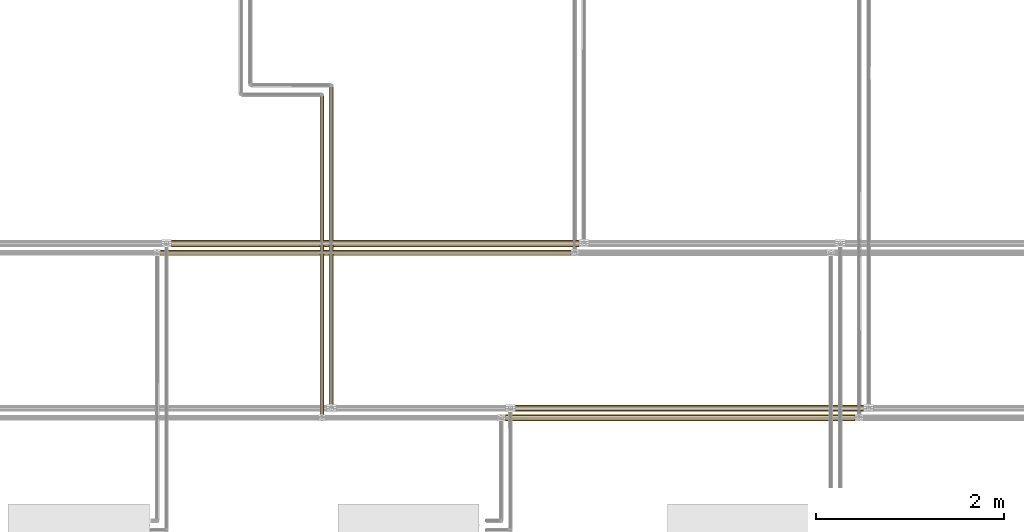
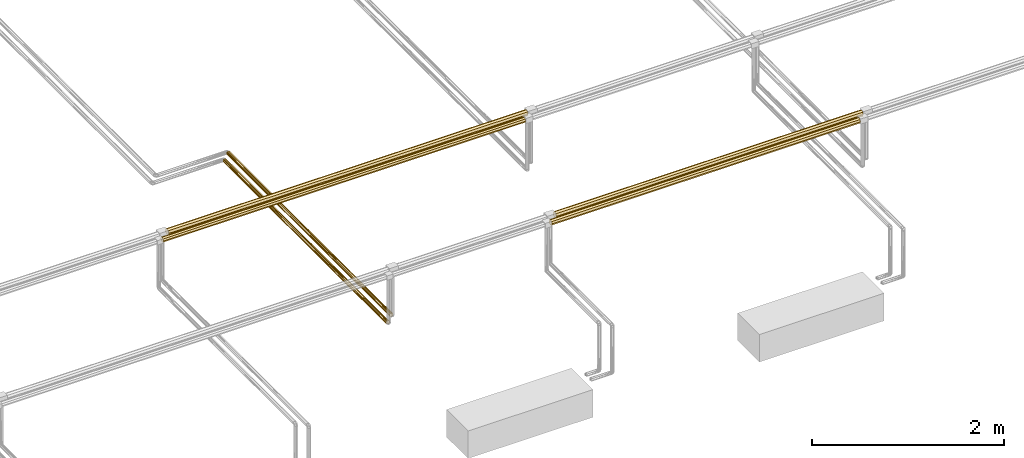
# One storey, part 130 of 652: 6 coverings.
"""IFC2X3 building model written with IfcOpenShell, lengths in millimetres."""

from ifc_helpers import new_model, entity, si_unit, converted_unit, direction, frame, origin, place, context, subcontext, project, spatial, faceted_brep, material, type_object, element, save


model = new_model("IFC2X3")

# Units and contexts
model_context = context("Model", 3, precision=0.01, world=frame((0.0, 0.0, 308426.39999999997)), true_north=direction((6.123233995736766e-17, 1.0)))
plan_context = context("Plan", 3, precision=0.01, world=frame((0.0, 0.0, 308426.39999999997)), true_north=direction((6.123233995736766e-17, 1.0)))
body_context = subcontext(model_context, "Body", "Model", "MODEL_VIEW")
ifc_project = project(units=[si_unit("LENGTHUNIT", "METRE", prefix="MILLI"), si_unit("AREAUNIT", "SQUARE_METRE"), si_unit("VOLUMEUNIT", "CUBIC_METRE"), converted_unit("PLANEANGLEUNIT", "DEGREE", entity("IfcPlaneAngleMeasure", 0.017453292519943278), si_unit("PLANEANGLEUNIT", "RADIAN"), dimensions=[0, 0, 0, 0, 0, 0, 0])], contexts=[model_context, plan_context])

# Site, building, storey
site_placement = place(None, origin())
site = spatial("IfcSite", under=ifc_project, at=site_placement, Name="Default", CompositionType="ELEMENT")
building_placement = place(site_placement, origin())
building = spatial("IfcBuilding", under=site, at=building_placement, CompositionType="ELEMENT")
storey_placement = place(building_placement, frame((0.0, 0.0, 1730.6999999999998)))
storey = spatial("IfcBuildingStorey", under=building, at=storey_placement, Name="EG_Produktion_FFB", CompositionType="ELEMENT", Elevation=1730.6999999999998)

# Coverings
ifc_material = material(Name="Dämmung - Armaflex-Schlauch")
covering_type = type_object("IfcCoveringType", Name="Rohrdämmung außen:Armaflex-Schlauch", PredefinedType="INSULATION")
covering_1_placement = place(storey_placement, frame((65836.7596831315, 69876.94222776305, 3938.057772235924)))
element("IfcCovering", 1, at=covering_1_placement, inside=storey, type_object=covering_type, material=ifc_material, Name="Rohrdämmung außen:Armaflex-Schlauch", ObjectType="Rohrdämmung außen:Armaflex-Schlauch", PredefinedType="INSULATION", context=body_context, shape_type="Brep", body=[
    faceted_brep([(0.0, 1.5952722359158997, -38.057772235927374), (0.0, 5.300876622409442, -29.111651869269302), (0.0, 6.935081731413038, -25.166331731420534), (0.0, 9.604986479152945, -18.72061147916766), (0.0, 12.274891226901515, -12.274891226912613), (0.0, 18.72061147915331, -9.604986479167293), (0.0, 25.166331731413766, -6.935081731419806), (0.0, 31.612051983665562, -4.265176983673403), (0.0, 38.057772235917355, -1.595272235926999), (0.0, 47.003892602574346, -5.300876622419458), (0.0, 50.94921274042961, -6.935081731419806), (0.0, 57.394932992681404, -9.60498647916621), (0.0, 63.8406532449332, -12.274891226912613), (0.0, 66.51055799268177, -18.72061147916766), (0.0, 69.18046274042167, -25.166331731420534), (0.0, 71.8503674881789, -31.612051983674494), (0.0, 74.52027223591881, -38.057772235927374), (0.0, 71.85036748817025, -44.50349248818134), (0.0, 69.18046274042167, -50.94921274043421), (0.0, 66.5105579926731, -57.39493299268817), (0.0, 63.8406532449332, -63.84065324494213), (0.0, 57.39493299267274, -66.51055799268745), (0.0, 50.94921274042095, -69.18046274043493), (0.0, 44.50349248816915, -71.85036748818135), (0.0, 38.057772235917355, -74.52027223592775), (0.0, 29.111651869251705, -70.8146678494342), (0.0, 25.166331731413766, -69.18046274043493), (0.0, 18.72061147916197, -66.51055799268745), (0.0, 12.274891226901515, -63.84065324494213), (0.0, 9.604986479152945, -57.39493299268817), (0.0, 6.935081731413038, -50.94921274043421), (0.0, 4.265176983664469, -44.50349248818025), (4321.1055000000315, 18.72061147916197, -66.51055799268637), (4321.1055000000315, 25.166331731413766, -69.18046274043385), (4321.1055000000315, 31.612051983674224, -71.85036748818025), (4321.1055000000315, 38.057772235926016, -74.52027223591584), (4321.1055000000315, 47.003892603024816, -70.81466784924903), (4321.1055000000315, 55.95001297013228, -67.10906346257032), (4321.1055000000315, 63.84065324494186, -63.84065324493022), (4321.1055000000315, 66.51055799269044, -57.39493299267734), (4321.1055000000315, 69.18046274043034, -50.949212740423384), (4321.1055000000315, 71.85036748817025, -44.50349248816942), (4321.1055000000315, 74.52027223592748, -38.05777223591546), (4321.1055000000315, 70.81466784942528, -29.111651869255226), (4321.1055000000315, 67.10906346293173, -20.165531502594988), (4321.1055000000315, 63.84065324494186, -12.274891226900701), (4321.1055000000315, 57.394932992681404, -9.604986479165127), (4321.1055000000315, 50.94921274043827, -6.935081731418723), (4321.1055000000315, 44.50349248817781, -4.265176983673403), (4321.1055000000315, 38.057772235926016, -1.5952722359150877), (4321.1055000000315, 29.11165186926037, -5.300876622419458), (4321.1055000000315, 20.165531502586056, -9.006481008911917), (4321.1055000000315, 12.274891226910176, -12.274891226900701), (4321.1055000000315, 9.604986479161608, -18.720611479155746), (4321.1055000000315, 6.935081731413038, -25.166331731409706), (4321.1055000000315, 4.265176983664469, -31.6120519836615), (4321.1055000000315, 1.5952722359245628, -38.05777223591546), (4321.1055000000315, 5.300876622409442, -47.003892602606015), (4321.105500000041, 9.006481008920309, -55.95001296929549), (4321.1055000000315, 12.274891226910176, -63.84065324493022)], [[[0, 1, 2, 3, 4, 5, 6, 7, 8, 9, 10, 11, 12, 13, 14, 15, 16, 17, 18, 19, 20, 21, 22, 23, 24, 25, 26, 27, 28, 29, 30, 31]], [[32, 33, 34, 35, 36, 37, 38, 39, 40, 41, 42, 43, 44, 45, 46, 47, 48, 49, 50, 51, 52, 53, 54, 55, 56, 57, 58, 59]], [[40, 39, 38, 20, 19, 18, 17, 16, 42, 41]], [[38, 37, 36, 35, 24, 23, 22, 21, 20]], [[30, 29, 28, 59, 58, 57, 56, 0, 31]], [[27, 26, 25, 24, 35, 34, 33, 32, 59, 28]], [[6, 5, 4, 52, 51, 50, 49, 8, 7]], [[3, 2, 1, 0, 56, 55, 54, 53, 52, 4]], [[14, 13, 12, 45, 44, 43, 42, 16, 15]], [[11, 10, 9, 8, 49, 48, 47, 46, 45, 12]]]),
])
covering_2_placement = place(storey_placement, frame((69486.75968313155, 68126.94222776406, 3861.942227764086)))
element("IfcCovering", 2, at=covering_2_placement, inside=storey, type_object=covering_type, material=ifc_material, Name="Rohrdämmung außen:Armaflex-Schlauch", ObjectType="Rohrdämmung außen:Armaflex-Schlauch", PredefinedType="INSULATION", context=body_context, shape_type="Brep", body=[
    faceted_brep([(3691.105500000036, 74.52027223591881, 38.057772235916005), (3691.105500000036, 72.35123270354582, 43.29429689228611), (3691.105500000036, 69.18046274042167, 50.949212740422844), (3691.105500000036, 66.51055799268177, 57.3949329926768), (3691.105500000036, 63.8406532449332, 63.84065324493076), (3691.105500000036, 57.39493299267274, 66.51055799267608), (3691.105500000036, 50.94921274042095, 69.18046274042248), (3691.105500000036, 44.50349248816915, 71.85036748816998), (3691.105500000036, 38.057772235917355, 74.52027223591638), (3691.105500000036, 32.82124757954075, 72.35123270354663), (3691.105500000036, 25.166331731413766, 69.18046274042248), (3691.105500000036, 18.720611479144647, 66.51055799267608), (3691.105500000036, 12.274891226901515, 63.84065324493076), (3691.105500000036, 9.604986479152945, 57.3949329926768), (3691.105500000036, 6.935081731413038, 50.949212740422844), (3691.105500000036, 4.265176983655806, 44.50349248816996), (3691.105500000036, 1.5952722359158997, 38.057772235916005), (3691.105500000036, 4.265176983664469, 31.61205198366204), (3691.105500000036, 6.935081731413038, 25.166331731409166), (3691.105500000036, 9.604986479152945, 18.720611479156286), (3691.105500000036, 12.274891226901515, 12.274891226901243), (3691.105500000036, 18.72061147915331, 9.604986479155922), (3691.105500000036, 25.166331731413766, 6.935081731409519), (3691.105500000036, 31.612051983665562, 4.265176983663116), (3691.105500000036, 38.057772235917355, 1.595272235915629), (3691.105500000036, 43.294296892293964, 3.7643117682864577), (3691.105500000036, 50.94921274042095, 6.935081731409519), (3691.105500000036, 57.394932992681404, 9.604986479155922), (3691.105500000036, 63.8406532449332, 12.274891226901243), (3691.105500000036, 66.51055799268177, 18.720611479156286), (3691.105500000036, 69.18046274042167, 25.166331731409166), (3691.1055000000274, 71.85036748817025, 31.61205198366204), (0.0, 57.394932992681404, 9.604986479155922), (0.0, 50.94921274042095, 6.935081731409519), (0.0, 44.50349248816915, 4.265176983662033), (0.0, 38.057772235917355, 1.595272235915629), (0.0, 27.584722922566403, 5.933351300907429), (0.0, 19.929807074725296, 9.104121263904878), (0.0, 12.274891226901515, 12.274891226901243), (0.0, 9.604986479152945, 18.720611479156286), (0.0, 6.935081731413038, 25.166331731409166), (0.0, 4.265176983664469, 31.61205198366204), (0.0, 1.5952722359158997, 38.057772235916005), (0.0, 5.933351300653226, 48.53082154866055), (0.0, 9.10412126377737, 56.18573739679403), (0.0, 12.274891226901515, 63.84065324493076), (0.0, 18.72061147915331, 66.51055799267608), (0.0, 25.166331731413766, 69.18046274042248), (0.0, 31.612051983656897, 71.85036748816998), (0.0, 38.057772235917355, 74.52027223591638), (0.0, 48.530821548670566, 70.18219317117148), (0.0, 56.18573739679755, 67.01142320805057), (0.0, 63.8406532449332, 63.84065324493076), (0.0, 66.51055799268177, 57.39493299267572), (0.0, 69.18046274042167, 50.949212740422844), (0.0, 71.85036748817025, 44.50349248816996), (0.0, 74.52027223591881, 38.057772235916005), (0.0, 70.1821931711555, 27.58472292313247), (0.0, 67.01142320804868, 19.9298070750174), (0.0, 63.8406532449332, 12.274891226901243)], [[[0, 1, 2, 3, 4, 5, 6, 7, 8, 9, 10, 11, 12, 13, 14, 15, 16, 17, 18, 19, 20, 21, 22, 23, 24, 25, 26, 27, 28, 29, 30, 31]], [[32, 33, 34, 35, 36, 37, 38, 39, 40, 41, 42, 43, 44, 45, 46, 47, 48, 49, 50, 51, 52, 53, 54, 55, 56, 57, 58, 59]], [[40, 39, 38, 20, 19, 18, 17, 16, 42, 41]], [[36, 35, 24, 23, 22, 21, 20, 38, 37]], [[33, 32, 59, 28, 27, 26, 25, 24, 35, 34]], [[28, 59, 58, 57, 56, 0, 31, 30, 29]], [[54, 53, 52, 4, 3, 2, 1, 0, 56, 55]], [[4, 52, 51, 50, 49, 8, 7, 6, 5]], [[47, 46, 45, 12, 11, 10, 9, 8, 49, 48]], [[12, 45, 44, 43, 42, 16, 15, 14, 13]]]),
])
covering_3_placement = place(storey_placement, frame((65719.36068313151, 69783.29222776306, 3868.2922277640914)))
element("IfcCovering", 3, at=covering_3_placement, inside=storey, type_object=covering_type, material=ifc_material, Name="Rohrdämmung außen:Armaflex-Schlauch", ObjectType="Rohrdämmung außen:Armaflex-Schlauch", PredefinedType="INSULATION", context=body_context, shape_type="Brep", body=[
    faceted_brep([(0.0, 1.5952722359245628, 31.707772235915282), (0.0, 4.354110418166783, 38.36819679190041), (0.0, 6.005145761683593, 42.354148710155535), (0.0, 8.210082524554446, 47.677336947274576), (0.0, 10.415019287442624, 53.000525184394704), (0.0, 15.738207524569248, 55.2054619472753), (0.0, 21.06139576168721, 57.410398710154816), (0.0, 26.38458399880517, 59.615335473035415), (0.0, 31.70777223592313, 61.820272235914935), (0.0, 38.36819679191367, 59.061434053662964), (0.0, 42.35414871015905, 57.410398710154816), (0.0, 47.677336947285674, 55.2054619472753), (0.0, 53.000525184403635, 53.000525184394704), (0.0, 55.205461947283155, 47.677336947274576), (0.0, 57.41039871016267, 42.354148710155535), (0.0, 59.61533547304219, 37.03096047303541), (0.0, 61.8202722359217, 31.707772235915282), (0.0, 59.61533547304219, 26.384583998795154), (0.0, 57.41039871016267, 21.061395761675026), (0.0, 55.205461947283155, 15.738207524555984), (0.0, 53.000525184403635, 10.415019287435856), (0.0, 47.677336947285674, 8.210082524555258), (0.0, 42.35414871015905, 6.005145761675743), (0.0, 37.03096047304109, 3.8002089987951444), (0.0, 31.70777223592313, 1.595272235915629), (0.0, 25.047347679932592, 4.354110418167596), (0.0, 21.06139576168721, 6.005145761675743), (0.0, 15.738207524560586, 8.210082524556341), (0.0, 10.415019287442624, 10.415019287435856), (0.0, 8.21008252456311, 15.738207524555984), (0.0, 6.005145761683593, 21.061395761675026), (0.0, 3.800208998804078, 26.384583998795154), (4355.903500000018, 15.738207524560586, 8.210082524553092), (4355.903500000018, 21.06139576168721, 6.005145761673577), (4355.903500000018, 26.384583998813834, 3.8002089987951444), (4355.903500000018, 31.707772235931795, 1.5952722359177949), (4355.903500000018, 38.36819679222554, 4.3541104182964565), (4355.903500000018, 45.02862134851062, 7.112948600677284), (4355.903500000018, 53.000525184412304, 10.415019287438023), (4355.903500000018, 55.205461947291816, 15.738207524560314), (4355.903500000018, 57.410398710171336, 21.061395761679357), (4355.903500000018, 59.61533547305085, 26.3845839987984), (4355.903500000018, 61.82027223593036, 31.707772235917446), (4355.903500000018, 59.061434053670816, 38.36819679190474), (4355.903500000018, 56.30259587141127, 45.02862134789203), (4355.903500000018, 53.000525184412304, 53.00052518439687), (4355.903500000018, 47.677336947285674, 55.205461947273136), (4355.903500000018, 42.35414871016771, 57.410398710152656), (4355.903500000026, 37.03096047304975, 59.615335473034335), (4355.903500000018, 31.707772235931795, 61.820272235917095), (4355.903500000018, 25.047347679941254, 59.061434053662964), (4355.903500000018, 18.386923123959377, 56.302595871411), (4355.903500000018, 10.415019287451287, 53.00052518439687), (4355.903500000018, 8.210082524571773, 47.67733694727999), (4355.903500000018, 6.005145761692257, 42.3541487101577), (4355.903500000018, 3.800208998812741, 37.030960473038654), (4355.903500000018, 1.5952722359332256, 31.707772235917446), (4355.903500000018, 4.354110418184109, 25.047347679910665), (4355.903500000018, 7.112948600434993, 18.38692312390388), (4355.903500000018, 10.415019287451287, 10.415019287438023)], [[[0, 1, 2, 3, 4, 5, 6, 7, 8, 9, 10, 11, 12, 13, 14, 15, 16, 17, 18, 19, 20, 21, 22, 23, 24, 25, 26, 27, 28, 29, 30, 31]], [[32, 33, 34, 35, 36, 37, 38, 39, 40, 41, 42, 43, 44, 45, 46, 47, 48, 49, 50, 51, 52, 53, 54, 55, 56, 57, 58, 59]], [[40, 39, 38, 20, 19, 18, 17, 16, 42, 41]], [[38, 37, 36, 35, 24, 23, 22, 21, 20]], [[56, 0, 31, 30, 29, 28, 59, 58, 57]], [[27, 26, 25, 24, 35, 34, 33, 32, 59, 28]], [[49, 8, 7, 6, 5, 4, 52, 51, 50]], [[3, 2, 1, 0, 56, 55, 54, 53, 52, 4]], [[42, 16, 15, 14, 13, 12, 45, 44, 43]], [[11, 10, 9, 8, 49, 48, 47, 46, 45, 12]]]),
])
covering_4_placement = place(storey_placement, frame((69378.06018313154, 68030.11722776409, 3865.117227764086)))
element("IfcCovering", 4, at=covering_4_placement, inside=storey, type_object=covering_type, material=ifc_material, Name="Rohrdämmung außen:Armaflex-Schlauch", ObjectType="Rohrdämmung außen:Armaflex-Schlauch", PredefinedType="INSULATION", context=body_context, shape_type="Brep", body=[
    faceted_brep([(3708.5045000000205, 68.17027223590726, 34.88277223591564), (3708.5045000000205, 66.28715559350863, 39.42901797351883), (3708.5045000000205, 63.295430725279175, 46.65168072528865), (3708.5045000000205, 60.8580099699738, 52.536134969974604), (3708.5045000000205, 58.420589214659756, 58.42058921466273), (3708.5045000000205, 52.53613496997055, 60.85800996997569), (3708.5045000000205, 46.65168072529, 63.295430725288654), (3708.5045000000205, 40.76722648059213, 65.73285148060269), (3708.5045000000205, 34.88277223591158, 68.17027223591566), (3708.504500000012, 30.336526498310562, 66.28715559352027), (3708.5045000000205, 23.113863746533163, 63.295430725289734), (3708.5045000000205, 17.229409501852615, 60.85800996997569), (3708.5045000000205, 11.344955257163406, 58.42058921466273), (3708.5045000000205, 8.907534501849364, 52.53613496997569), (3708.5045000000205, 6.470113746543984, 46.65168072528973), (3708.504500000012, 4.0326929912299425, 40.76722648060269), (3708.5045000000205, 1.5952722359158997, 34.88277223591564), (3708.5045000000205, 4.032692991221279, 28.9983179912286), (3708.5045000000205, 6.470113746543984, 23.113863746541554), (3708.5045000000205, 8.907534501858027, 17.229409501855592), (3708.5045000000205, 11.344955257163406, 11.34495525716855), (3708.5045000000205, 17.229409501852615, 8.90753450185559), (3708.5045000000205, 23.113863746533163, 6.470113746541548), (3708.5045000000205, 28.998317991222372, 4.032692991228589), (3708.5045000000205, 34.88277223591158, 1.595272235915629), (3708.504500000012, 39.4290179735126, 3.4783888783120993), (3708.5045000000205, 46.65168072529, 6.470113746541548), (3708.5045000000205, 52.53613496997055, 8.90753450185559), (3708.5045000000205, 58.420589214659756, 11.34495525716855), (3708.5045000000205, 60.85800996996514, 17.229409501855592), (3708.5045000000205, 63.295430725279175, 23.113863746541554), (3708.5045000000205, 65.73285148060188, 28.9983179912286), (0.0, 52.53613496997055, 8.90753450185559), (0.0, 46.65168072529, 6.470113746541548), (0.0, 40.76722648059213, 4.032692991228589), (0.0, 34.88277223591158, 1.595272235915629), (0.0, 25.790280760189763, 5.361505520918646), (0.0, 18.567618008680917, 8.353230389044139), (0.0, 11.344955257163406, 11.34495525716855), (0.0, 8.907534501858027, 17.229409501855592), (0.0, 6.470113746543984, 23.113863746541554), (0.0, 4.0326929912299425, 28.9983179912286), (0.0, 1.5952722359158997, 34.88277223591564), (0.0, 5.361505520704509, 43.975263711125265), (0.0, 8.353230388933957, 51.197926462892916), (0.0, 11.344955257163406, 58.42058921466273), (0.0, 17.229409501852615, 60.85800996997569), (0.0, 23.113863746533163, 63.295430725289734), (0.0, 28.998317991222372, 65.73285148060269), (0.0, 34.88277223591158, 68.17027223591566), (0.0, 43.97526371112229, 64.40403895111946), (0.0, 51.19792646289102, 61.4123140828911), (0.0, 58.420589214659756, 58.42058921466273), (0.0, 60.8580099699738, 52.536134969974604), (0.0, 63.295430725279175, 46.65168072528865), (0.0, 65.73285148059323, 40.7672264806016), (0.0, 68.17027223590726, 34.88277223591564), (0.0, 64.40403895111, 25.790280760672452), (0.0, 61.41231408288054, 18.56761800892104), (0.0, 58.420589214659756, 11.34495525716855)], [[[0, 1, 2, 3, 4, 5, 6, 7, 8, 9, 10, 11, 12, 13, 14, 15, 16, 17, 18, 19, 20, 21, 22, 23, 24, 25, 26, 27, 28, 29, 30, 31]], [[32, 33, 34, 35, 36, 37, 38, 39, 40, 41, 42, 43, 44, 45, 46, 47, 48, 49, 50, 51, 52, 53, 54, 55, 56, 57, 58, 59]], [[40, 39, 38, 20, 19, 18, 17, 16, 42, 41]], [[36, 35, 24, 23, 22, 21, 20, 38, 37]], [[33, 32, 59, 28, 27, 26, 25, 24, 35, 34]], [[28, 59, 58, 57, 56, 0, 31, 30, 29]], [[54, 53, 52, 4, 3, 2, 1, 0, 56, 55]], [[4, 52, 51, 50, 49, 8, 7, 6, 5]], [[47, 46, 45, 12, 11, 10, 9, 8, 49, 48]], [[12, 45, 44, 43, 42, 16, 15, 14, 13]]]),
])
covering_5_placement = place(storey_placement, frame((67406.95466089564, 68081.35497776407, 3274.6422277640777)))
element("IfcCovering", 5, at=covering_5_placement, inside=storey, type_object=covering_type, material=ifc_material, Name="Rohrdämmung außen:Armaflex-Schlauch", ObjectType="Rohrdämmung außen:Armaflex-Schlauch", PredefinedType="INSULATION", context=body_context, shape_type="Brep", body=[
    faceted_brep([(20.423230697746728, 3394.7872563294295, 48.04709335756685), (25.35777223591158, 3394.7872563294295, 49.12027223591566), (29.55842845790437, 3394.7872563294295, 47.380303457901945), (33.759084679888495, 3394.7872563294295, 45.640334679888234), (37.95974090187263, 3394.7872563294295, 43.90036590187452), (42.160397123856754, 3394.7872563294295, 42.16039712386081), (43.90036590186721, 3394.7872563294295, 37.95974090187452), (45.640334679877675, 3394.7872563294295, 33.759084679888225), (47.87895145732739, 3394.7872563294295, 28.354585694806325), (49.12027223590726, 3394.7872563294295, 25.35777223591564), (47.38030345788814, 3394.7872563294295, 21.157116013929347), (45.640334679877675, 3394.7872563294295, 16.956459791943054), (43.90036590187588, 3394.7872563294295, 12.755803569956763), (42.160397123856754, 3394.7872563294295, 8.55514734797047), (37.95974090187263, 3394.7872563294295, 6.8151785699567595), (33.759084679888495, 3394.7872563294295, 5.075209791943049), (29.55842845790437, 3394.7872563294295, 3.335241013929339), (25.35777223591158, 3394.7872563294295, 1.595272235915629), (20.423230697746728, 3394.7872563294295, 2.6684511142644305), (15.488689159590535, 3394.7872563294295, 3.741629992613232), (11.4481056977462, 3394.7872563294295, 6.764379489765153), (7.407522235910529, 3394.7872563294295, 9.78712898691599), (7.407522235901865, 3394.7872563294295, 40.92841548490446), (11.4481056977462, 3394.7872563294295, 43.95116498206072), (15.488689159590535, 3394.7872563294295, 46.97391447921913), (49.12027223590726, 1.5952722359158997, 25.357772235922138), (48.047093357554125, 1.5952722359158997, 30.292313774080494), (46.97391447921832, 1.5952722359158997, 35.22685531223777), (43.95116498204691, 1.5952722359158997, 39.267438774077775), (40.92841548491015, 1.5952722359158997, 43.308022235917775), (9.787128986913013, 1.5952722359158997, 43.308022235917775), (6.764379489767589, 1.5952722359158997, 39.267438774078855), (3.7416299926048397, 1.5952722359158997, 35.22685531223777), (2.6684511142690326, 1.5952722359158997, 30.292313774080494), (1.5952722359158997, 1.5952722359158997, 25.357772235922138), (3.3352410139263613, 1.5952722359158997, 21.15711601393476), (5.075209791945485, 1.5952722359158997, 16.95645979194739), (6.815178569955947, 1.5952722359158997, 12.755803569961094), (8.55514734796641, 1.5952722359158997, 8.555147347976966), (12.755803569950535, 1.5952722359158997, 6.815178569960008), (16.956459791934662, 1.5952722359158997, 5.075209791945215), (21.157116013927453, 1.5952722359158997, 3.335241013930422), (25.35777223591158, 1.5952722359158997, 1.5952722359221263), (31.351399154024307, 1.5952722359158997, 4.077913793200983), (36.75589813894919, 1.5952722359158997, 6.316530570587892), (42.160397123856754, 1.5952722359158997, 8.555147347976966), (43.90036590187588, 1.5952722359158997, 12.755803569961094), (45.640334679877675, 1.5952722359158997, 16.95645979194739), (47.38030345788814, 1.5952722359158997, 21.15711601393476), (2.345488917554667, 3389.7252230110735, 21.20275131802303), (5.251613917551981, 3392.6313480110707, 13.417429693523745), (3.095705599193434, 3390.4754396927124, 17.04773040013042), (1.5952722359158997, 3388.9750063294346, 25.35777223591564), (2.345488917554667, 3389.7252230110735, 29.512793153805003), (3.095705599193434, 3390.4754396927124, 33.667814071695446), (5.251613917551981, 3392.631348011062, 37.298114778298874), (13.417429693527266, 3.751180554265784, 45.463930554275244), (21.202751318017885, 6.657305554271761, 48.37005555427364), (25.35777223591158, 7.407522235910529, 49.12027223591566), (17.047730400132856, 5.907088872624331, 47.619838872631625), (29.51279315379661, 6.657305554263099, 48.370055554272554), (33.66781407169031, 5.907088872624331, 47.619838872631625), (37.2981147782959, 3.751180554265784, 45.463930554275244)], [[[0, 1, 2, 3, 4, 5, 6, 7, 8, 9, 10, 11, 12, 13, 14, 15, 16, 17, 18, 19, 20, 21, 22, 23, 24]], [[25, 26, 27, 28, 29, 30, 31, 32, 33, 34, 35, 36, 37, 38, 39, 40, 41, 42, 43, 44, 45, 46, 47, 48]], [[47, 46, 45, 13, 12, 11, 10, 9, 25, 48]], [[43, 42, 17, 16, 15, 14, 13, 45, 44]], [[20, 39, 38]], [[42, 41, 17]], [[40, 19, 18]], [[40, 39, 19]], [[34, 49, 35]], [[21, 37, 50]], [[51, 36, 35]], [[18, 41, 40]], [[36, 51, 50]], [[19, 39, 20]], [[49, 51, 35]], [[17, 41, 18]], [[38, 21, 20]], [[52, 49, 34]], [[37, 21, 38]], [[37, 36, 50]], [[53, 52, 34]], [[33, 54, 53]], [[55, 31, 22]], [[23, 56, 24]], [[55, 54, 32]], [[56, 23, 30]], [[57, 1, 0]], [[32, 54, 33]], [[57, 58, 1]], [[53, 34, 33]], [[31, 55, 32]], [[24, 59, 0]], [[31, 30, 22]], [[0, 59, 57]], [[23, 22, 30]], [[56, 59, 24]], [[58, 60, 1]], [[26, 25, 8]], [[2, 60, 61]], [[27, 6, 28]], [[62, 3, 61]], [[5, 29, 28]], [[27, 26, 7]], [[7, 26, 8]], [[1, 60, 2]], [[28, 6, 5]], [[25, 9, 8]], [[27, 7, 6]], [[3, 62, 4]], [[29, 4, 62]], [[2, 61, 3]], [[4, 29, 5]], [[54, 55, 22, 21, 50, 51, 49, 52, 53]], [[29, 62, 61, 60, 58, 57, 59, 56, 30]]]),
])
covering_6_placement = place(storey_placement, frame((67506.95466089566, 68181.35497776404, 3325.357772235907)))
element("IfcCovering", 6, at=covering_6_placement, inside=storey, type_object=covering_type, material=ifc_material, Name="Rohrdämmung außen:Armaflex-Schlauch", ObjectType="Rohrdämmung außen:Armaflex-Schlauch", PredefinedType="INSULATION", context=body_context, shape_type="Brep", body=[
    faceted_brep([(20.42323069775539, 3394.787256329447, -2.668451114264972), (25.357772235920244, 3394.787256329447, -1.5952722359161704), (29.558428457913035, 3394.787256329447, -3.3352410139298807), (33.759084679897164, 3394.787256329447, -5.075209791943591), (37.95974090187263, 3394.787256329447, -6.8151785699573), (42.160397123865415, 3394.787256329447, -8.55514734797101), (43.90036590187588, 3394.787256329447, -12.755803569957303), (45.64033467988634, 3394.787256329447, -16.956459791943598), (47.87895145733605, 3394.787256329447, -22.3609587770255), (49.12027223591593, 3394.787256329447, -25.357772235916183), (47.3803034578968, 3394.787256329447, -29.558428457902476), (45.64033467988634, 3394.787256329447, -33.759084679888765), (43.90036590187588, 3394.787256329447, -37.95974090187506), (42.160397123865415, 3394.787256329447, -42.16039712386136), (37.95974090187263, 3394.787256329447, -43.90036590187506), (33.759084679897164, 3394.787256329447, -45.640334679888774), (29.558428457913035, 3394.787256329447, -47.380303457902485), (25.357772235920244, 3394.787256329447, -49.1202722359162), (20.42323069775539, 3394.787256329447, -48.04709335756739), (15.488689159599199, 3394.787256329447, -46.97391447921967), (11.448105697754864, 3394.787256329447, -43.95116498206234), (7.407522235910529, 3394.787256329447, -40.928415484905), (7.407522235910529, 3394.787256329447, -9.78712898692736), (11.448105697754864, 3394.787256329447, -6.764379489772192), (15.488689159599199, 3394.787256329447, -3.7416299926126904), (40.92841548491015, 1.5952722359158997, -7.407522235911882), (9.78712898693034, 1.5952722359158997, -7.407522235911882), (6.764379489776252, 1.5952722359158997, -11.448105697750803), (3.7416299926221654, 1.5952722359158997, -15.488689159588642), (2.6684511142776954, 1.5952722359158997, -20.42323069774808), (1.5952722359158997, 1.5952722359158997, -25.357772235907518), (3.335241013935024, 1.5952722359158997, -29.558428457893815), (5.075209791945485, 1.5952722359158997, -33.759084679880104), (6.815178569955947, 1.5952722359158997, -37.9597409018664), (8.55514734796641, 1.5952722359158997, -42.16039712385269), (12.755803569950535, 1.5952722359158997, -43.90036590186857), (16.956459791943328, 1.5952722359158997, -45.64033467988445), (21.157116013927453, 1.5952722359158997, -47.38030345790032), (25.35777223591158, 1.5952722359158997, -49.120272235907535), (31.351399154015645, 1.5952722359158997, -46.63763067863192), (36.75589813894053, 1.5952722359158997, -44.39901390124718), (42.160397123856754, 1.5952722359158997, -42.16039712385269), (43.90036590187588, 1.5952722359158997, -37.9597409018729), (45.64033467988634, 1.5952722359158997, -33.75908467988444), (47.3803034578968, 1.5952722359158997, -29.558428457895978), (49.12027223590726, 1.5952722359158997, -25.357772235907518), (48.047093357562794, 1.5952722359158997, -20.42323069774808), (46.973914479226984, 1.5952722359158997, -15.488689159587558), (43.951164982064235, 1.5952722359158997, -11.448105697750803), (2.34548891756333, 3389.7252230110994, -29.512793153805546), (5.251613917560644, 3392.6313480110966, -37.298114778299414), (3.095705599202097, 3390.4754396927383, -33.667814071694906), (1.5952722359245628, 3388.975006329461, -25.357772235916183), (2.34548891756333, 3389.7252230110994, -21.20275131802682), (3.095705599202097, 3390.4754396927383, -17.04773040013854), (5.251613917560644, 3392.6313480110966, -13.417429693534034), (13.417429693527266, 3.751180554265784, -5.2516139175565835), (21.20275131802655, 6.657305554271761, -2.345488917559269), (25.35777223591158, 7.407522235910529, -1.5952722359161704), (17.047730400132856, 5.907088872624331, -3.095705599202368), (29.512793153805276, 6.657305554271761, -2.345488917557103), (33.66781407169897, 5.907088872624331, -3.095705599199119), (37.29811477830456, 3.751180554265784, -5.251613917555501)], [[[0, 1, 2, 3, 4, 5, 6, 7, 8, 9, 10, 11, 12, 13, 14, 15, 16, 17, 18, 19, 20, 21, 22, 23, 24]], [[25, 26, 27, 28, 29, 30, 31, 32, 33, 34, 35, 36, 37, 38, 39, 40, 41, 42, 43, 44, 45, 46, 47, 48]], [[43, 42, 41, 13, 12, 11, 10, 9, 45, 44]], [[39, 38, 17, 16, 15, 14, 13, 41, 40]], [[20, 35, 34]], [[38, 37, 17]], [[36, 19, 18]], [[36, 35, 19]], [[30, 49, 31]], [[21, 33, 50]], [[51, 32, 31]], [[18, 37, 36]], [[32, 51, 50]], [[19, 35, 20]], [[49, 51, 31]], [[17, 37, 18]], [[34, 21, 20]], [[52, 49, 30]], [[33, 21, 34]], [[33, 32, 50]], [[53, 52, 30]], [[29, 54, 53]], [[55, 27, 22]], [[23, 56, 24]], [[55, 54, 28]], [[56, 23, 26]], [[57, 1, 0]], [[28, 54, 29]], [[57, 58, 1]], [[53, 30, 29]], [[27, 55, 28]], [[24, 59, 0]], [[27, 26, 22]], [[0, 59, 57]], [[23, 22, 26]], [[56, 59, 24]], [[58, 60, 1]], [[46, 45, 8]], [[2, 60, 61]], [[47, 6, 48]], [[62, 3, 61]], [[5, 25, 48]], [[47, 46, 7]], [[7, 46, 8]], [[1, 60, 2]], [[48, 6, 5]], [[45, 9, 8]], [[47, 7, 6]], [[3, 62, 4]], [[25, 4, 62]], [[2, 61, 3]], [[4, 25, 5]], [[54, 55, 22, 21, 50, 51, 49, 52, 53]], [[61, 60, 58, 57, 59, 56, 26, 25, 62]]]),
])

save(model, "model.ifc")
